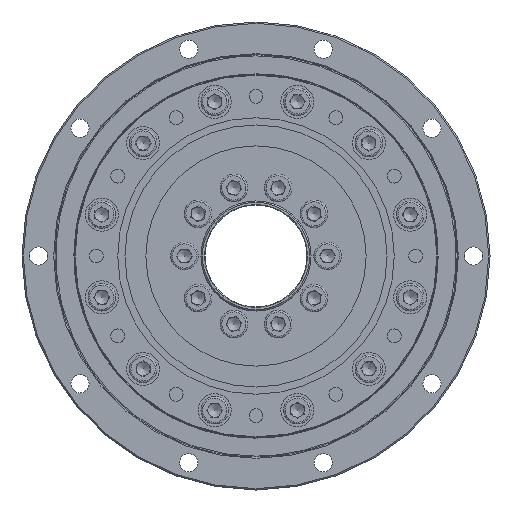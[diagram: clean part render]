
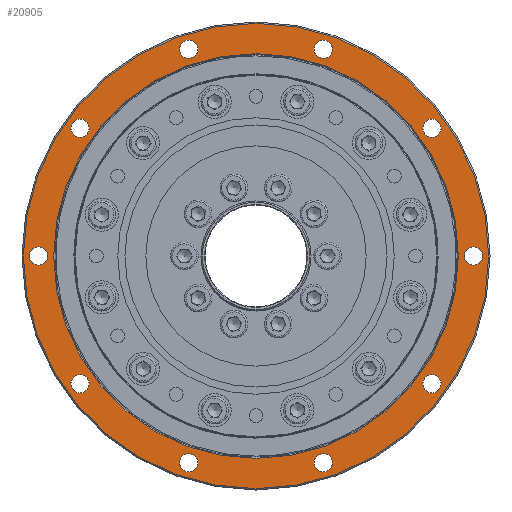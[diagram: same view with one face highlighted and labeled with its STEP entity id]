
A CAD part, left-side view. The second image highlights one B-rep face of the part: STEP entity #20905.
In plain terms, the highlighted planar face has unit normal (-1, 0, 0).
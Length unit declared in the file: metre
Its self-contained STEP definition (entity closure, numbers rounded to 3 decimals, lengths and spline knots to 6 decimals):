
#539 = CIRCLE ( 'NONE', #4506, 0.0845 ) ;
#857 = CARTESIAN_POINT ( 'NONE',  ( -0.03295, 0.024412, 0.075133 ) ) ;
#1222 = EDGE_CURVE ( 'NONE', #27331, #27331, #9157, .T. ) ;
#1401 = CARTESIAN_POINT ( 'NONE',  ( -0.03295, -0.024412, 0.071833 ) ) ;
#1535 = ORIENTED_EDGE ( 'NONE', *, *, #24552, .F. ) ;
#1612 = FACE_BOUND ( 'NONE', #32434, .T. ) ;
#2185 = EDGE_LOOP ( 'NONE', ( #1535 ) ) ;
#2314 = CARTESIAN_POINT ( 'NONE',  ( -0.03295, -0.063912, 0.043135 ) ) ;
#2607 = CARTESIAN_POINT ( 'NONE',  ( -0.03295, 0.063912, -0.049735 ) ) ;
#2698 = CIRCLE ( 'NONE', #6733, 0.0033 ) ;
#2922 = CARTESIAN_POINT ( 'NONE',  ( -0.03295, -0.079, 0. ) ) ;
#2946 = DIRECTION ( 'NONE',  ( 0., 0., -1. ) ) ;
#3618 = FACE_BOUND ( 'NONE', #26029, .T. ) ;
#4296 = FACE_BOUND ( 'NONE', #7564, .T. ) ;
#4506 = AXIS2_PLACEMENT_3D ( 'NONE', #32868, #28022, #2946 ) ;
#4529 = DIRECTION ( 'NONE',  ( -1., 0., 0. ) ) ;
#4641 = VERTEX_POINT ( 'NONE', #14369 ) ;
#4837 = EDGE_LOOP ( 'NONE', ( #19229 ) ) ;
#4947 = EDGE_CURVE ( 'NONE', #8480, #8480, #9849, .T. ) ;
#5522 = DIRECTION ( 'NONE',  ( -1., 0., 0. ) ) ;
#5658 = DIRECTION ( 'NONE',  ( 0., 0., -1. ) ) ;
#6244 = EDGE_CURVE ( 'NONE', #13478, #13478, #2698, .T. ) ;
#6275 = CIRCLE ( 'NONE', #10840, 0.0033 ) ;
#6396 = DIRECTION ( 'NONE',  ( -1., 0., 0. ) ) ;
#6585 = VERTEX_POINT ( 'NONE', #1401 ) ;
#6733 = AXIS2_PLACEMENT_3D ( 'NONE', #32295, #20659, #32113 ) ;
#7165 = DIRECTION ( 'NONE',  ( 0., 0., -1. ) ) ;
#7175 = VERTEX_POINT ( 'NONE', #34048 ) ;
#7564 = EDGE_LOOP ( 'NONE', ( #33029 ) ) ;
#7945 = CARTESIAN_POINT ( 'NONE',  ( -0.03295, -0.024412, -0.078433 ) ) ;
#8480 = VERTEX_POINT ( 'NONE', #24404 ) ;
#8729 = AXIS2_PLACEMENT_3D ( 'NONE', #11759, #6396, #28271 ) ;
#9157 = CIRCLE ( 'NONE', #34324, 0.0033 ) ;
#9271 = AXIS2_PLACEMENT_3D ( 'NONE', #25244, #11935, #16976 ) ;
#9844 = FACE_BOUND ( 'NONE', #26573, .T. ) ;
#9849 = CIRCLE ( 'NONE', #31586, 0.0033 ) ;
#10364 = FACE_BOUND ( 'NONE', #24987, .T. ) ;
#10431 = EDGE_LOOP ( 'NONE', ( #31578 ) ) ;
#10628 = CARTESIAN_POINT ( 'NONE',  ( -0.03295, -0.063912, 0.046435 ) ) ;
#10840 = AXIS2_PLACEMENT_3D ( 'NONE', #857, #11756, #33630 ) ;
#10886 = DIRECTION ( 'NONE',  ( -1., 0., 0. ) ) ;
#11015 = VERTEX_POINT ( 'NONE', #19096 ) ;
#11316 = DIRECTION ( 'NONE',  ( -1., 0., 0. ) ) ;
#11322 = CARTESIAN_POINT ( 'NONE',  ( -0.03295, 0.024412, 0.071833 ) ) ;
#11442 = AXIS2_PLACEMENT_3D ( 'NONE', #2922, #11316, #23762 ) ;
#11756 = DIRECTION ( 'NONE',  ( -1., 0., 0. ) ) ;
#11759 = CARTESIAN_POINT ( 'NONE',  ( -0.03295, -0.024412, 0.075133 ) ) ;
#11935 = DIRECTION ( 'NONE',  ( -1., 0., 0. ) ) ;
#12266 = ORIENTED_EDGE ( 'NONE', *, *, #21249, .F. ) ;
#12699 = DIRECTION ( 'NONE',  ( -1., 0., 0. ) ) ;
#13033 = FACE_BOUND ( 'NONE', #10431, .T. ) ;
#13093 = EDGE_LOOP ( 'NONE', ( #25847 ) ) ;
#13478 = VERTEX_POINT ( 'NONE', #7945 ) ;
#13806 = EDGE_LOOP ( 'NONE', ( #17392 ) ) ;
#13813 = CIRCLE ( 'NONE', #9271, 0.0033 ) ;
#14369 = CARTESIAN_POINT ( 'NONE',  ( -0.03295, 0.024412, -0.078433 ) ) ;
#14415 = CARTESIAN_POINT ( 'NONE',  ( -0.03295, -0.063912, -0.049735 ) ) ;
#15210 = FACE_BOUND ( 'NONE', #24924, .T. ) ;
#15863 = CARTESIAN_POINT ( 'NONE',  ( -0.03295, 0., -0.0845 ) ) ;
#15912 = CARTESIAN_POINT ( 'NONE',  ( -0.03295, 0.063912, 0.046435 ) ) ;
#16227 = CIRCLE ( 'NONE', #26559, 0.0033 ) ;
#16342 = VERTEX_POINT ( 'NONE', #19760 ) ;
#16523 = EDGE_CURVE ( 'NONE', #32574, #32574, #16227, .T. ) ;
#16976 = DIRECTION ( 'NONE',  ( 0., 0., -1. ) ) ;
#17392 = ORIENTED_EDGE ( 'NONE', *, *, #4947, .F. ) ;
#17403 = AXIS2_PLACEMENT_3D ( 'NONE', #31705, #20938, #7165 ) ;
#18270 = ORIENTED_EDGE ( 'NONE', *, *, #32226, .F. ) ;
#18280 = CIRCLE ( 'NONE', #31448, 0.0735 ) ;
#19096 = CARTESIAN_POINT ( 'NONE',  ( -0.03295, 0., 0.0735 ) ) ;
#19229 = ORIENTED_EDGE ( 'NONE', *, *, #22123, .F. ) ;
#19407 = DIRECTION ( 'NONE',  ( -1., 0., 0. ) ) ;
#19760 = CARTESIAN_POINT ( 'NONE',  ( -0.03295, 0.063912, 0.043135 ) ) ;
#20092 = EDGE_LOOP ( 'NONE', ( #26508 ) ) ;
#20490 = DIRECTION ( 'NONE',  ( 0., 0., 1. ) ) ;
#20659 = DIRECTION ( 'NONE',  ( -1., 0., 0. ) ) ;
#20769 = FACE_BOUND ( 'NONE', #13806, .T. ) ;
#20905 = ADVANCED_FACE ( 'NONE', ( #28167, #28844, #34392, #4296, #3618, #15210, #10364, #26165, #13033, #1612, #9844, #20769 ), #34727, .F. ) ;
#20938 = DIRECTION ( 'NONE',  ( 1., 0., 0. ) ) ;
#21249 = EDGE_CURVE ( 'NONE', #6585, #6585, #21843, .T. ) ;
#21471 = CARTESIAN_POINT ( 'NONE',  ( -0.03295, -0.063912, -0.046435 ) ) ;
#21843 = CIRCLE ( 'NONE', #8729, 0.0033 ) ;
#21948 = VERTEX_POINT ( 'NONE', #14415 ) ;
#22074 = VERTEX_POINT ( 'NONE', #11322 ) ;
#22123 = EDGE_CURVE ( 'NONE', #24456, #24456, #539, .T. ) ;
#22831 = AXIS2_PLACEMENT_3D ( 'NONE', #15912, #5522, #24328 ) ;
#22864 = CIRCLE ( 'NONE', #23447, 0.0033 ) ;
#23414 = CIRCLE ( 'NONE', #22831, 0.0033 ) ;
#23447 = AXIS2_PLACEMENT_3D ( 'NONE', #21471, #10886, #32409 ) ;
#23762 = DIRECTION ( 'NONE',  ( 0., 0., -1. ) ) ;
#24328 = DIRECTION ( 'NONE',  ( 0., 0., -1. ) ) ;
#24404 = CARTESIAN_POINT ( 'NONE',  ( -0.03295, 0.079, -0.0033 ) ) ;
#24456 = VERTEX_POINT ( 'NONE', #15863 ) ;
#24552 = EDGE_CURVE ( 'NONE', #11015, #11015, #18280, .T. ) ;
#24558 = ORIENTED_EDGE ( 'NONE', *, *, #1222, .F. ) ;
#24739 = ORIENTED_EDGE ( 'NONE', *, *, #33954, .F. ) ;
#24910 = EDGE_CURVE ( 'NONE', #21948, #21948, #22864, .T. ) ;
#24924 = EDGE_LOOP ( 'NONE', ( #35015 ) ) ;
#24987 = EDGE_LOOP ( 'NONE', ( #18270 ) ) ;
#25244 = CARTESIAN_POINT ( 'NONE',  ( -0.03295, 0.024412, -0.075133 ) ) ;
#25847 = ORIENTED_EDGE ( 'NONE', *, *, #30526, .F. ) ;
#25983 = DIRECTION ( 'NONE',  ( 0., 0., -1. ) ) ;
#26029 = EDGE_LOOP ( 'NONE', ( #12266 ) ) ;
#26153 = CARTESIAN_POINT ( 'NONE',  ( -0.03295, 0.063912, -0.046435 ) ) ;
#26165 = FACE_BOUND ( 'NONE', #20092, .T. ) ;
#26508 = ORIENTED_EDGE ( 'NONE', *, *, #24910, .F. ) ;
#26559 = AXIS2_PLACEMENT_3D ( 'NONE', #10628, #19407, #35006 ) ;
#26573 = EDGE_LOOP ( 'NONE', ( #24558 ) ) ;
#26670 = DIRECTION ( 'NONE',  ( -1., 0., 0. ) ) ;
#27331 = VERTEX_POINT ( 'NONE', #2607 ) ;
#28022 = DIRECTION ( 'NONE',  ( 1., 0., 0. ) ) ;
#28167 = FACE_OUTER_BOUND ( 'NONE', #4837, .T. ) ;
#28271 = DIRECTION ( 'NONE',  ( 0., 0., -1. ) ) ;
#28844 = FACE_BOUND ( 'NONE', #2185, .T. ) ;
#29065 = CARTESIAN_POINT ( 'NONE',  ( -0.03295, 0., 0. ) ) ;
#30188 = CARTESIAN_POINT ( 'NONE',  ( -0.03295, 0.079, 0. ) ) ;
#30526 = EDGE_CURVE ( 'NONE', #16342, #16342, #23414, .T. ) ;
#31448 = AXIS2_PLACEMENT_3D ( 'NONE', #29065, #4529, #20490 ) ;
#31578 = ORIENTED_EDGE ( 'NONE', *, *, #6244, .F. ) ;
#31586 = AXIS2_PLACEMENT_3D ( 'NONE', #30188, #12699, #5658 ) ;
#31705 = CARTESIAN_POINT ( 'NONE',  ( -0.03295, 0.0735, 0. ) ) ;
#32060 = EDGE_CURVE ( 'NONE', #22074, #22074, #6275, .T. ) ;
#32113 = DIRECTION ( 'NONE',  ( 0., 0., -1. ) ) ;
#32226 = EDGE_CURVE ( 'NONE', #7175, #7175, #33183, .T. ) ;
#32295 = CARTESIAN_POINT ( 'NONE',  ( -0.03295, -0.024412, -0.075133 ) ) ;
#32409 = DIRECTION ( 'NONE',  ( 0., 0., -1. ) ) ;
#32434 = EDGE_LOOP ( 'NONE', ( #24739 ) ) ;
#32574 = VERTEX_POINT ( 'NONE', #2314 ) ;
#32868 = CARTESIAN_POINT ( 'NONE',  ( -0.03295, 0., 0. ) ) ;
#33029 = ORIENTED_EDGE ( 'NONE', *, *, #32060, .F. ) ;
#33183 = CIRCLE ( 'NONE', #11442, 0.0033 ) ;
#33630 = DIRECTION ( 'NONE',  ( 0., 0., -1. ) ) ;
#33954 = EDGE_CURVE ( 'NONE', #4641, #4641, #13813, .T. ) ;
#34048 = CARTESIAN_POINT ( 'NONE',  ( -0.03295, -0.079, -0.0033 ) ) ;
#34324 = AXIS2_PLACEMENT_3D ( 'NONE', #26153, #26670, #25983 ) ;
#34392 = FACE_BOUND ( 'NONE', #13093, .T. ) ;
#34727 = PLANE ( 'NONE',  #17403 ) ;
#35006 = DIRECTION ( 'NONE',  ( 0., 0., -1. ) ) ;
#35015 = ORIENTED_EDGE ( 'NONE', *, *, #16523, .F. ) ;
